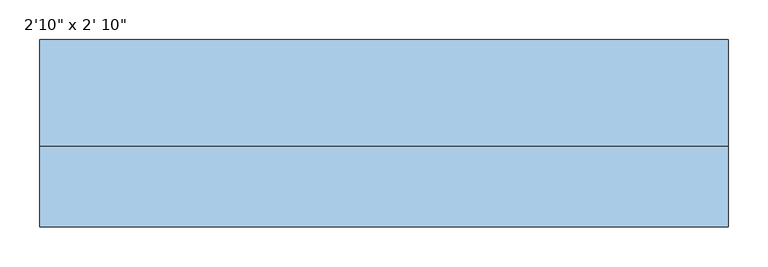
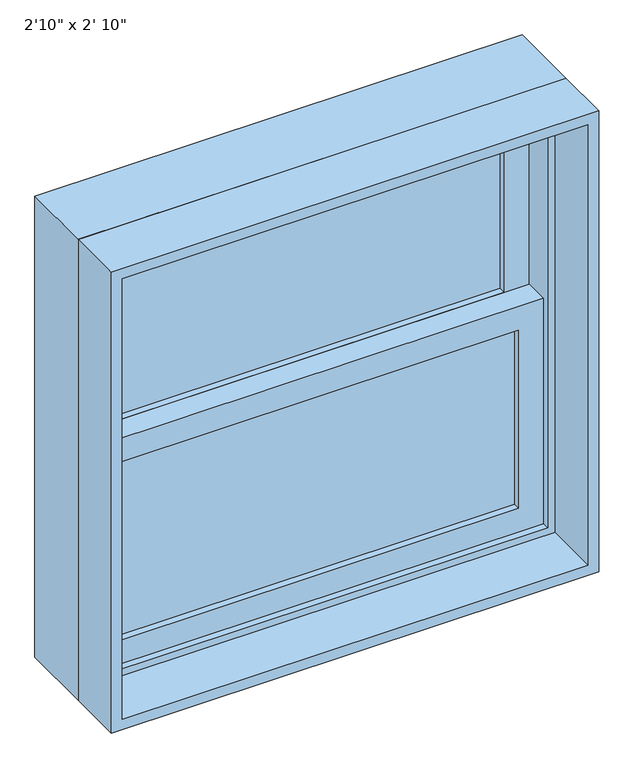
"""IFC4 building model written with IfcOpenShell, lengths in millimetres: window geometry."""

from ifc_helpers import new_model, si_unit, frame, origin, place, context, project, spatial, polyline, outline, extrude, source, transform, mapped, element, save


def window_7579d9c0(model_context):
    return source(origin(), model_context, "Body", "SweptSolid", [
        extrude(outline(polyline([(355.6, 38.1), (355.6, 31.75), (-355.6, 31.75), (-355.6, 38.1), (355.6, 38.1)])), frame((0.0, 0.0, 990.6), z_axis=(0.0, 0.0, 1.0), x_axis=(1.0, 0.0, 0.0)), (0.0, 0.0, 1.0), 333.375),
        extrude(outline(polyline([(-355.6, 25.4), (355.6, 25.4), (355.6, 19.05), (-355.6, 19.05), (-355.6, 25.4)])), frame((0.0, 0.0, 990.6), z_axis=(0.0, 0.0, 1.0), x_axis=(1.0, 0.0, 0.0)), (0.0, 0.0, 1.0), 333.375),
        extrude(outline(polyline([(355.6, 82.55), (355.6, 76.2), (-355.6, 76.2), (-355.6, 82.55), (355.6, 82.55)])), frame((0.0, 0.0, 1368.425), z_axis=(0.0, 0.0, 1.0), x_axis=(1.0, 0.0, 0.0)), (0.0, 0.0, 1.0), 333.375),
        extrude(outline(polyline([(-355.6, 69.85), (355.6, 69.85), (355.6, 63.5), (-355.6, 63.5), (-355.6, 69.85)])), frame((0.0, 0.0, 1368.425), z_axis=(0.0, 0.0, 1.0), x_axis=(1.0, 0.0, 0.0)), (0.0, 0.0, 1.0), 333.375),
        extrude(outline(polyline([(1368.425, -400.05), (946.15, -400.05), (946.15, 400.05), (1368.425, 400.05), (1368.425, -400.05)]), holes=[polyline([(1323.975, 355.6), (990.6, 355.6), (990.6, -355.6), (1323.975, -355.6), (1323.975, 355.6)])]), frame((0.0, 6.35, 0.0), z_axis=(0.0, 1.0, 0.0), x_axis=(0.0, 0.0, 1.0)), (0.0, 0.0, 1.0), 44.45),
        extrude(outline(polyline([(1746.25, -400.05), (1323.975, -400.05), (1323.975, 400.05), (1746.25, 400.05), (1746.25, -400.05)]), holes=[polyline([(1701.8, 355.6), (1368.425, 355.6), (1368.425, -355.6), (1701.8, -355.6), (1701.8, 355.6)])]), frame((0.0, 50.8, 0.0), z_axis=(0.0, 1.0, 0.0), x_axis=(0.0, 0.0, 1.0)), (0.0, 0.0, 1.0), 44.45),
        extrude(outline(polyline([(1778.0, -431.8), (914.4, -431.8), (914.4, 431.8), (1778.0, 431.8), (1778.0, -431.8)]), holes=[polyline([(1746.25, 400.05), (946.15, 400.05), (946.15, -400.05), (1746.25, -400.05), (1746.25, 400.05)])]), frame((0.0, -6.35, 0.0), z_axis=(0.0, 1.0, 0.0), x_axis=(0.0, 0.0, 1.0)), (0.0, 0.0, 1.0), 133.35),
        extrude(outline(polyline([(1778.0, 431.8), (1778.0, -431.8), (914.4, -431.8), (914.4, 431.8), (1778.0, 431.8)]), holes=[polyline([(1758.95, 412.75), (933.45, 412.75), (933.45, -412.75), (1758.95, -412.75), (1758.95, 412.75)])]), frame((0.0, -107.95, 0.0), z_axis=(0.0, 1.0, 0.0), x_axis=(0.0, 0.0, 1.0)), (0.0, 0.0, 1.0), 101.6),
    ])


if __name__ == "__main__":
    model = new_model("IFC4")
    model_context = context("Model", 3, world=origin())
    ifc_project = project(units=[si_unit("LENGTHUNIT", "METRE", prefix="MILLI")], contexts=[model_context])
    site = spatial("IfcSite", under=ifc_project)
    building = spatial("IfcBuilding", under=site)
    placement = place(None, origin())
    window_shape = window_7579d9c0(model_context)
    element("IfcWindow", 1, ObjectType="Planitar-Double-Hung-Single : 2'10\" x 2' 10\"", at=placement, inside=building, context=model_context, shape_type="MappedRepresentation", body=[
        mapped(window_shape, transform((0.0, 0.0, 0.0), x_axis=(1.0, 0.0, 0.0), y_axis=(0.0, 1.0, 0.0), z_axis=(0.0, 0.0, 1.0))),
    ])
    save(model, "model.ifc")
